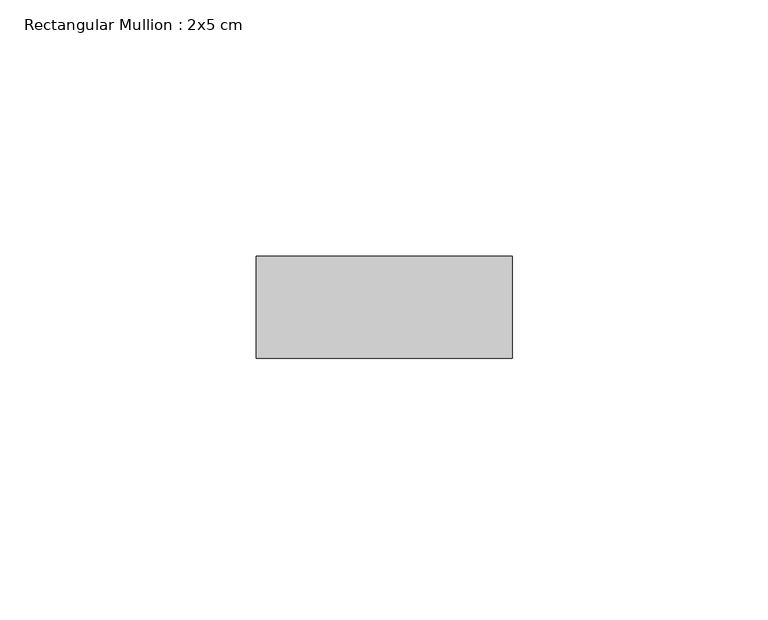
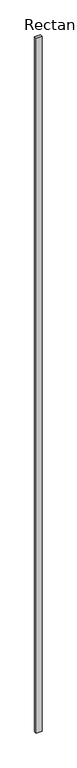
"""IFC4 building model written with IfcOpenShell, lengths in millimetres: member geometry, Rectangular Mullion : 2x5 cm."""

from ifc_helpers import new_model, si_unit, frame, origin, place, context, project, spatial, polyline, outline, extrude, source, transform, mapped, element, save


def rectangular_mullion_2x5_cm_6d9cb155(model_context):
    return source(origin(), model_context, "Body", "SweptSolid", [
        extrude(outline(polyline([(50.0, 20.0), (50.0, 0.0), (0.0, 0.0), (0.0, 20.0), (50.0, 20.0)])), frame((0.0, 0.0, -6176.0728573), z_axis=(0.0, 0.0, 1.0), x_axis=(1.0, 0.0, 0.0)), (0.0, 0.0, 1.0), 6176.0728573),
    ])


if __name__ == "__main__":
    model = new_model("IFC4")
    model_context = context("Model", 3, world=origin())
    ifc_project = project(units=[si_unit("LENGTHUNIT", "METRE", prefix="MILLI")], contexts=[model_context])
    site = spatial("IfcSite", under=ifc_project)
    building = spatial("IfcBuilding", under=site)
    placement = place(None, origin())
    rectangular_mullion_2x5_cm_shape = rectangular_mullion_2x5_cm_6d9cb155(model_context)
    element("IfcMember", 1, ObjectType="Rectangular Mullion : 2x5 cm", at=placement, inside=building, context=model_context, shape_type="MappedRepresentation", body=[
        mapped(rectangular_mullion_2x5_cm_shape, transform((0.0, 0.0, 0.0), x_axis=(1.0, 0.0, 0.0), y_axis=(0.0, 1.0, 0.0), z_axis=(0.0, 0.0, 1.0))),
    ])
    save(model, "model.ifc")
